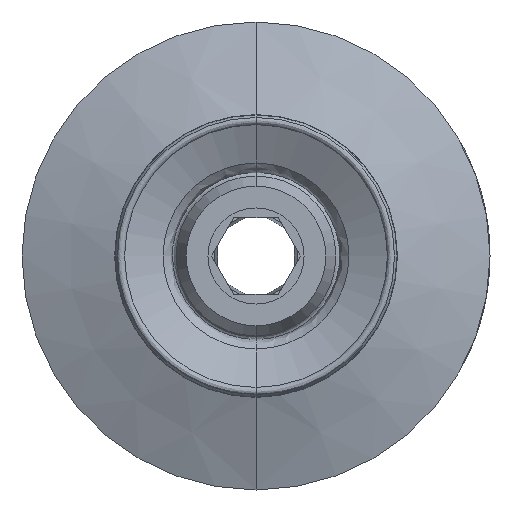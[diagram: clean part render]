
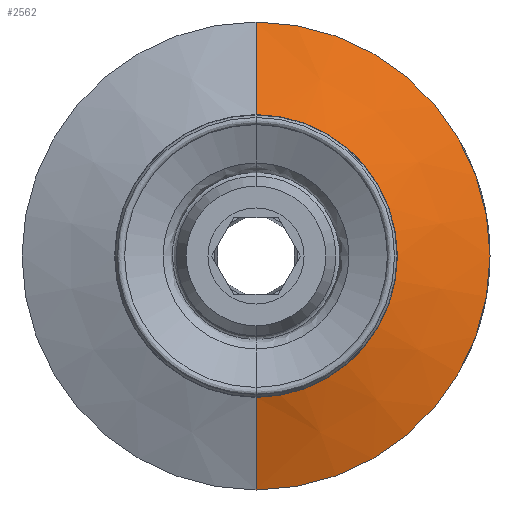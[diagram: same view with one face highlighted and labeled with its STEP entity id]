
A CAD part, front view. The second image highlights one B-rep face of the part: STEP entity #2562.
In plain terms, the highlighted conical face has half-angle 70 degrees and reference radius 18.25 mm.
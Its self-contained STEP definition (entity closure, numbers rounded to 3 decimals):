
#71 = EDGE_CURVE ( 'NONE', #12021, #10512, #10109, .T. ) ;
#124 = DIRECTION ( 'NONE',  ( 0., 1., 0. ) ) ;
#125 = VERTEX_POINT ( 'NONE', #2210 ) ;
#366 = CIRCLE ( 'NONE', #7228, 18.25 ) ;
#374 = CARTESIAN_POINT ( 'NONE',  ( 0., -6.5, 0. ) ) ;
#749 = LINE ( 'NONE', #8166, #11632 ) ;
#1620 = DIRECTION ( 'NONE',  ( 0., 0.342, -0.94 ) ) ;
#2210 = CARTESIAN_POINT ( 'NONE',  ( 0., -6.5, 18.25 ) ) ;
#2448 = CARTESIAN_POINT ( 'NONE',  ( 0., -6.5, -18.25 ) ) ;
#2562 = ADVANCED_FACE ( 'NONE', ( #5105 ), #5192, .T. ) ;
#3007 = EDGE_CURVE ( 'NONE', #12021, #125, #6992, .T. ) ;
#3195 = CARTESIAN_POINT ( 'NONE',  ( 0., -6.5, 18.25 ) ) ;
#3458 = DIRECTION ( 'NONE',  ( 0., 1., 0. ) ) ;
#4754 = CARTESIAN_POINT ( 'NONE',  ( 0., -9.128, 11.029 ) ) ;
#4916 = DIRECTION ( 'NONE',  ( 0., 0., 1. ) ) ;
#5105 = FACE_OUTER_BOUND ( 'NONE', #10600, .T. ) ;
#5192 = CONICAL_SURFACE ( 'NONE', #6750, 18.25, 1.222 ) ;
#5269 = CARTESIAN_POINT ( 'NONE',  ( 0., -9.128, -11.029 ) ) ;
#5419 = AXIS2_PLACEMENT_3D ( 'NONE', #7788, #124, #11290 ) ;
#5493 = VECTOR ( 'NONE', #6067, 1000. ) ;
#6067 = DIRECTION ( 'NONE',  ( 0., 0.342, 0.94 ) ) ;
#6511 = VERTEX_POINT ( 'NONE', #2448 ) ;
#6750 = AXIS2_PLACEMENT_3D ( 'NONE', #374, #8593, #4916 ) ;
#6992 = LINE ( 'NONE', #3195, #5493 ) ;
#7228 = AXIS2_PLACEMENT_3D ( 'NONE', #11806, #3458, #10076 ) ;
#7788 = CARTESIAN_POINT ( 'NONE',  ( 0., -9.128, 0. ) ) ;
#8166 = CARTESIAN_POINT ( 'NONE',  ( 0., -6.5, -18.25 ) ) ;
#8384 = EDGE_CURVE ( 'NONE', #10512, #6511, #749, .T. ) ;
#8593 = DIRECTION ( 'NONE',  ( 0., 1., 0. ) ) ;
#9049 = ORIENTED_EDGE ( 'NONE', *, *, #3007, .F. ) ;
#9228 = ORIENTED_EDGE ( 'NONE', *, *, #8384, .T. ) ;
#9818 = ORIENTED_EDGE ( 'NONE', *, *, #11938, .F. ) ;
#10076 = DIRECTION ( 'NONE',  ( 0., 0., 1. ) ) ;
#10109 = CIRCLE ( 'NONE', #5419, 11.029 ) ;
#10512 = VERTEX_POINT ( 'NONE', #5269 ) ;
#10600 = EDGE_LOOP ( 'NONE', ( #11785, #9228, #9818, #9049 ) ) ;
#11290 = DIRECTION ( 'NONE',  ( -1., 0., 0. ) ) ;
#11632 = VECTOR ( 'NONE', #1620, 1000. ) ;
#11785 = ORIENTED_EDGE ( 'NONE', *, *, #71, .T. ) ;
#11806 = CARTESIAN_POINT ( 'NONE',  ( 0., -6.5, 0. ) ) ;
#11938 = EDGE_CURVE ( 'NONE', #125, #6511, #366, .T. ) ;
#12021 = VERTEX_POINT ( 'NONE', #4754 ) ;
